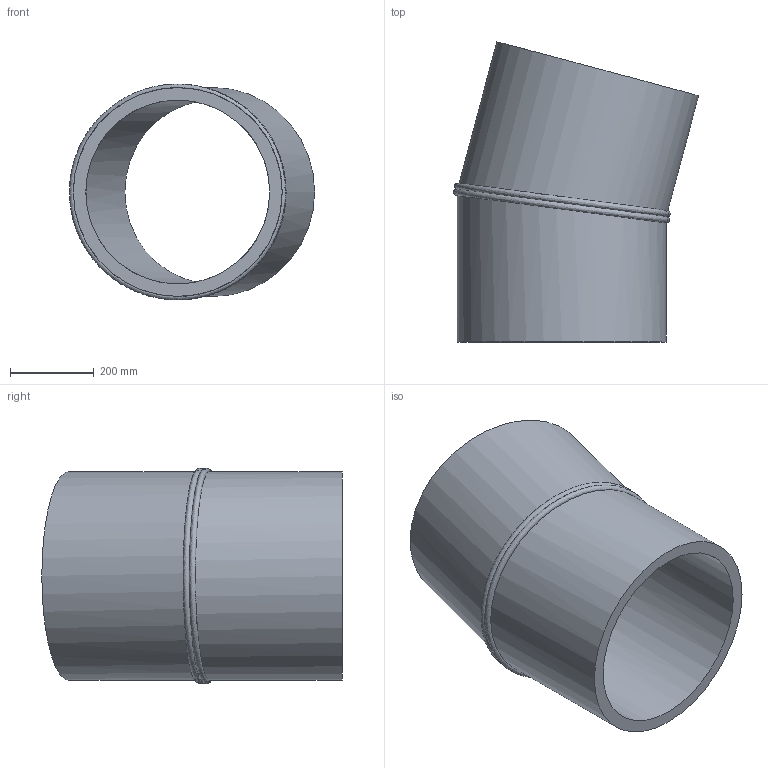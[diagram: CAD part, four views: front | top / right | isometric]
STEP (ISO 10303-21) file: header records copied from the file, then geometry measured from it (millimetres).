
FILE_DESCRIPTION(/* description */ ('Unknown'),/* implementation_level */ '2;1');
FILE_NAME(/* name */ 'Curva 15° a settore DE500 SDR17',/* time_stamp */ '2022-07-22T17:06:00+02:00',/* author */ ('Unknown'),/* organization */ ('Unknown'),/* preprocessor_version */ 'ST-DEVELOPER v18.102',/* originating_system */ 'Solid Edge',/* authorisation */ 'Unknown');
FILE_SCHEMA (('AUTOMOTIVE_DESIGN {1 0 10303 214 3 1 1}'));
Length unit declared in the file: millimetre
Products named in the file (2): Curva 15° a settore DE500 SDR17; Tubo x Gomito 15° DE500 SDR17
Assembly tree (2 placements, depth 2):
  Curva 15° a settore DE500 SDR17
    Tubo x Gomito 15° DE500 SDR17  x2
Bounding box: 587.07 x 719.19 x 516.91 mm (x, y, z)
Volume: 29546612.1 mm3; surface area: 2179307.2 mm2
Topology: 2 solids, 2 shells, 10 faces, 20 edges, 14 vertices
Faces by surface type: cylinder 4, plane 4, bspline 2
Full cylindrical faces by diameter (mm): 440.6 x2, 500 x2
Entity records: 1219 total; most frequent: CARTESIAN_POINT 1082, DIRECTION 20, ORIENTED_EDGE 10, EDGE_LOOP 10, FACE_BOUND 10, AXIS2_PLACEMENT_3D 10, EDGE_CURVE 5, VERTEX_POINT 5
